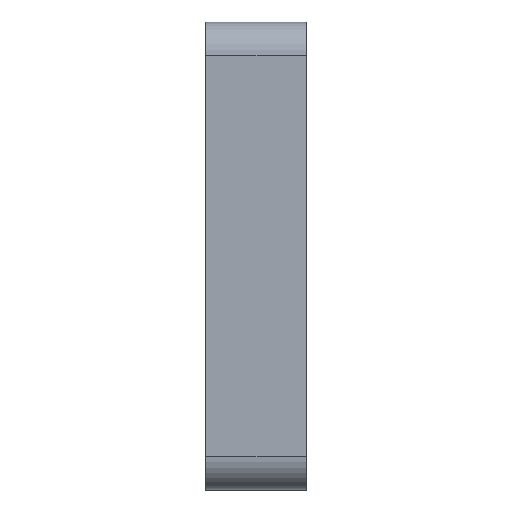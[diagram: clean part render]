
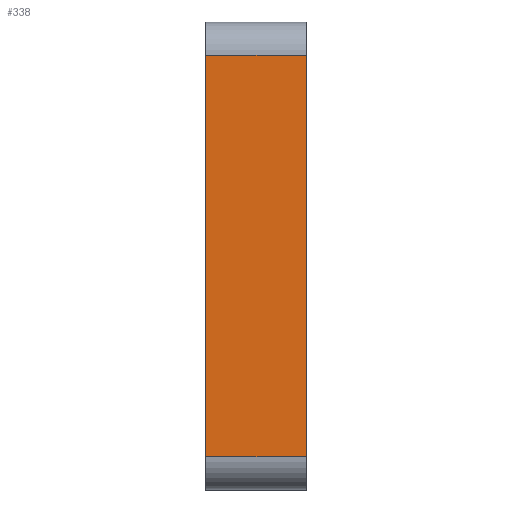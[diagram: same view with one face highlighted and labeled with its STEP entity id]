
A CAD part, left-side view. The second image highlights one B-rep face of the part: STEP entity #338.
In plain terms, the highlighted planar face has unit normal (-1, 0, 0).
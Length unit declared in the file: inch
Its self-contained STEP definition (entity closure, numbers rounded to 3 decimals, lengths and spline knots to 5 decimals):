
#28 = VERTEX_POINT ( 'NONE', #151 ) ;
#55 = EDGE_LOOP ( 'NONE', ( #335, #898, #750, #670 ) ) ;
#98 = DIRECTION ( 'NONE',  ( 0., -1., 0. ) ) ;
#151 = CARTESIAN_POINT ( 'NONE',  ( -1.375, 0., -0.75 ) ) ;
#235 = LINE ( 'NONE', #1008, #547 ) ;
#266 = FACE_OUTER_BOUND ( 'NONE', #55, .T. ) ;
#335 = ORIENTED_EDGE ( 'NONE', *, *, #1385, .T. ) ;
#338 = ADVANCED_FACE ( 'NONE', ( #266 ), #1476, .T. ) ;
#378 = CARTESIAN_POINT ( 'NONE',  ( -1.375, 0., -0.875 ) ) ;
#384 = VECTOR ( 'NONE', #1212, 39.37008 ) ;
#547 = VECTOR ( 'NONE', #949, 39.37008 ) ;
#566 = CARTESIAN_POINT ( 'NONE',  ( -1.375, 0., 0.75 ) ) ;
#600 = VERTEX_POINT ( 'NONE', #566 ) ;
#601 = CARTESIAN_POINT ( 'NONE',  ( -1.375, 0., -0.75 ) ) ;
#660 = VECTOR ( 'NONE', #964, 39.37008 ) ;
#670 = ORIENTED_EDGE ( 'NONE', *, *, #1425, .T. ) ;
#750 = ORIENTED_EDGE ( 'NONE', *, *, #1394, .F. ) ;
#855 = VECTOR ( 'NONE', #98, 39.37008 ) ;
#882 = VERTEX_POINT ( 'NONE', #1654 ) ;
#898 = ORIENTED_EDGE ( 'NONE', *, *, #991, .T. ) ;
#932 = VERTEX_POINT ( 'NONE', #1390 ) ;
#949 = DIRECTION ( 'NONE',  ( 0., 1., 0. ) ) ;
#964 = DIRECTION ( 'NONE',  ( 0., 0., 1. ) ) ;
#975 = DIRECTION ( 'NONE',  ( -1., 0., 0. ) ) ;
#991 = EDGE_CURVE ( 'NONE', #600, #882, #235, .T. ) ;
#1008 = CARTESIAN_POINT ( 'NONE',  ( -1.375, 0., 0.75 ) ) ;
#1019 = DIRECTION ( 'NONE',  ( 0., 0., 1. ) ) ;
#1196 = LINE ( 'NONE', #1513, #660 ) ;
#1199 = AXIS2_PLACEMENT_3D ( 'NONE', #1351, #975, #1019 ) ;
#1212 = DIRECTION ( 'NONE',  ( 0., 0., 1. ) ) ;
#1297 = LINE ( 'NONE', #601, #855 ) ;
#1351 = CARTESIAN_POINT ( 'NONE',  ( -1.375, 0., -0.875 ) ) ;
#1385 = EDGE_CURVE ( 'NONE', #28, #600, #1438, .T. ) ;
#1390 = CARTESIAN_POINT ( 'NONE',  ( -1.375, 0.375, -0.75 ) ) ;
#1394 = EDGE_CURVE ( 'NONE', #932, #882, #1196, .T. ) ;
#1425 = EDGE_CURVE ( 'NONE', #932, #28, #1297, .T. ) ;
#1438 = LINE ( 'NONE', #378, #384 ) ;
#1476 = PLANE ( 'NONE',  #1199 ) ;
#1513 = CARTESIAN_POINT ( 'NONE',  ( -1.375, 0.375, -0.875 ) ) ;
#1654 = CARTESIAN_POINT ( 'NONE',  ( -1.375, 0.375, 0.75 ) ) ;
